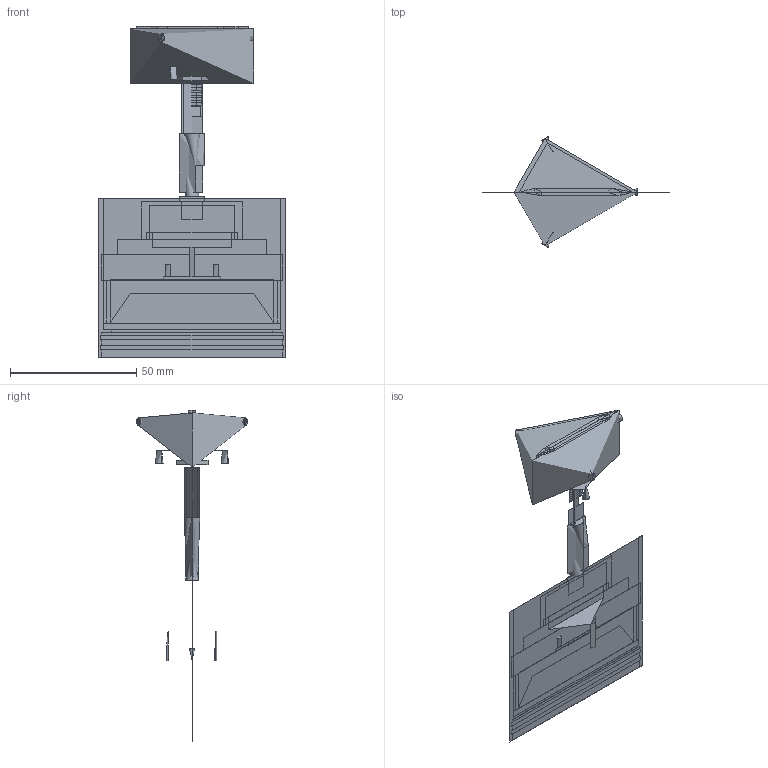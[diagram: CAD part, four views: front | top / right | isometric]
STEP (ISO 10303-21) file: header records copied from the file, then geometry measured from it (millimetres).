
FILE_DESCRIPTION(/* description */ (''),/* implementation_level */ '2;1');
FILE_NAME(/* name */ 'Mark S10',/* time_stamp */ '2025-06-18T18:05:30+02:00',/* author */ (''),/* organization */ (''),/* preprocessor_version */ 'ST-DEVELOPER v15',/* originating_system */ '',/* authorisation */ '');
FILE_SCHEMA (('CONFIG_CONTROL_DESIGN'));
Length unit declared in the file: millimetre
Products named in the file (1): Document
Bounding box: 74.4 x 43.89 x 131.18 mm (x, y, z)
Volume: 97482.2 mm3; surface area: 84992.3 mm2
Topology: 14 solids, 20 shells, 266 faces, 598 edges, 338 vertices
Faces by surface type: bspline 266
Entity records: 15787 total; most frequent: CARTESIAN_POINT 8522, B_SPLINE_CURVE_WITH_KNOTS 1342, ORIENTED_EDGE 1136, PCURVE 1136, DEFINITIONAL_REPRESENTATION 1136, SURFACE_CURVE 576, EDGE_CURVE 576, VERTEX_POINT 334
